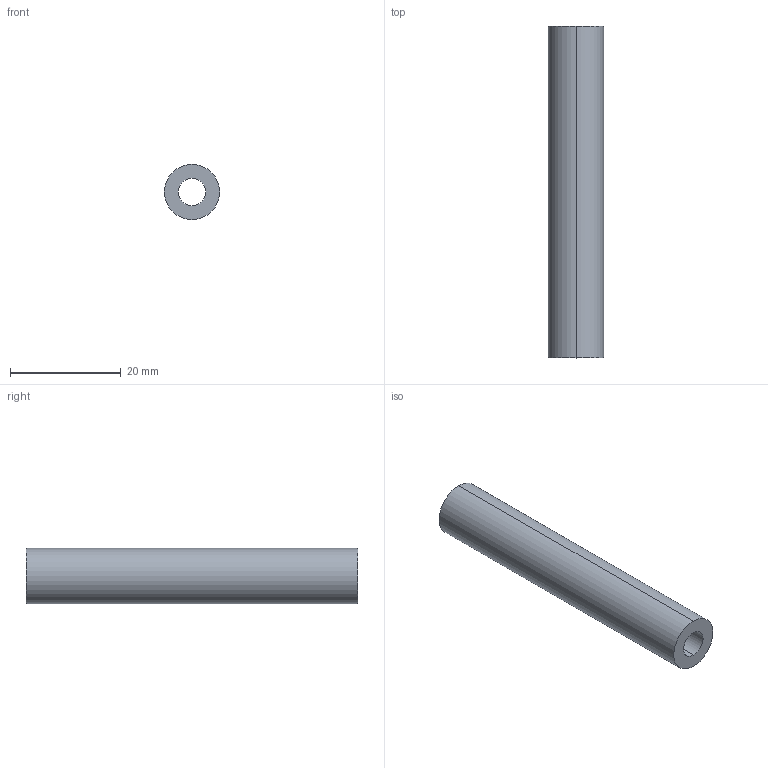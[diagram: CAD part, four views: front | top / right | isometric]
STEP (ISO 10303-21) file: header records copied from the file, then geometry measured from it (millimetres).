
FILE_DESCRIPTION (( 'STEP AP203' ), '1' );
FILE_NAME ('P_RR_Domyœlna_sldprt.STEP', '2024-04-08T11:03:04', ( '' ), ( '' ), 'SwSTEP 2.0', 'SolidWorks 2024', '' );
FILE_SCHEMA (( 'CONFIG_CONTROL_DESIGN' ));
Length unit declared in the file: millimetre
Products named in the file (1): P_RR_Domyślna_sldprt
Bounding box: 10 x 60 x 10 mm (x, y, z)
Volume: 3534.3 mm3; surface area: 2945.2 mm2
Topology: 1 solids, 1 shells, 6 faces, 12 edges, 8 vertices
Faces by surface type: cylinder 4, plane 2
Entity records: 245 total; most frequent: DIRECTION 34, CARTESIAN_POINT 27, ORIENTED_EDGE 24, AXIS2_PLACEMENT_3D 15, EDGE_CURVE 12, CIRCLE 8, EDGE_LOOP 8, VERTEX_POINT 8
